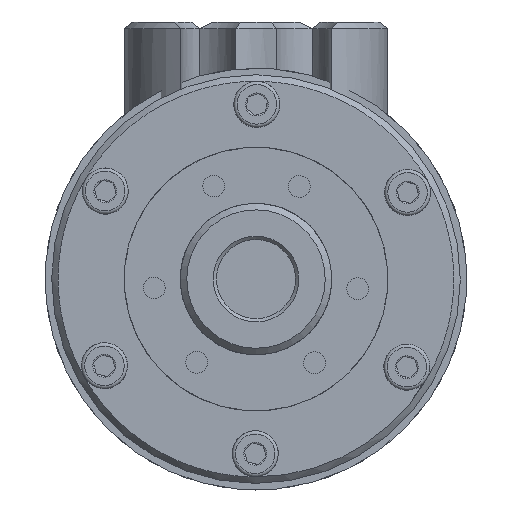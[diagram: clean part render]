
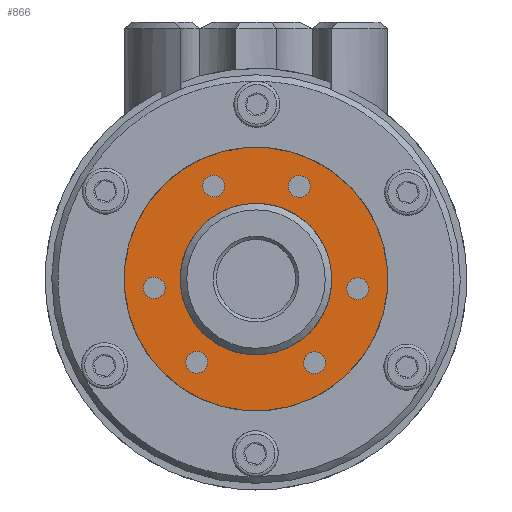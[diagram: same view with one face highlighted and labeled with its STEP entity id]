
A CAD part, left-side view. The second image highlights one B-rep face of the part: STEP entity #866.
In plain terms, the highlighted planar face has unit normal (-1, 0, 0) as drawn and (0, -1, 0) by its records, which use the part's own axes.
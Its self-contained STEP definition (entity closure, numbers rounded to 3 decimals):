
#866 = ADVANCED_FACE( '', ( #1820, #1821, #1822, #1823, #1824, #1825, #1826, #1827 ), #1828, .F. );
#1820 = FACE_OUTER_BOUND( '', #3330, .T. );
#1821 = FACE_BOUND( '', #3331, .T. );
#1822 = FACE_BOUND( '', #3332, .T. );
#1823 = FACE_BOUND( '', #3333, .T. );
#1824 = FACE_BOUND( '', #3334, .T. );
#1825 = FACE_BOUND( '', #3335, .T. );
#1826 = FACE_BOUND( '', #3336, .T. );
#1827 = FACE_BOUND( '', #3337, .T. );
#1828 = PLANE( '', #3338 );
#3330 = EDGE_LOOP( '', ( #5778 ) );
#3331 = EDGE_LOOP( '', ( #5779 ) );
#3332 = EDGE_LOOP( '', ( #5780 ) );
#3333 = EDGE_LOOP( '', ( #5781 ) );
#3334 = EDGE_LOOP( '', ( #5782 ) );
#3335 = EDGE_LOOP( '', ( #5783 ) );
#3336 = EDGE_LOOP( '', ( #5784 ) );
#3337 = EDGE_LOOP( '', ( #5785 ) );
#3338 = AXIS2_PLACEMENT_3D( '', #5786, #5787, #5788 );
#5778 = ORIENTED_EDGE( '', *, *, #6839, .T. );
#5779 = ORIENTED_EDGE( '', *, *, #6851, .F. );
#5780 = ORIENTED_EDGE( '', *, *, #6848, .F. );
#5781 = ORIENTED_EDGE( '', *, *, #6849, .F. );
#5782 = ORIENTED_EDGE( '', *, *, #6850, .F. );
#5783 = ORIENTED_EDGE( '', *, *, #6852, .F. );
#5784 = ORIENTED_EDGE( '', *, *, #6840, .F. );
#5785 = ORIENTED_EDGE( '', *, *, #6853, .F. );
#5786 = CARTESIAN_POINT( '', ( 0., 0., 20. ) );
#5787 = DIRECTION( '', ( 0., 1., 0. ) );
#5788 = DIRECTION( '', ( 1., 0., 0. ) );
#6839 = EDGE_CURVE( '', #8072, #8072, #8073, .T. );
#6840 = EDGE_CURVE( '', #8074, #8074, #8075, .T. );
#6848 = EDGE_CURVE( '', #8090, #8090, #8091, .T. );
#6849 = EDGE_CURVE( '', #8092, #8092, #8093, .T. );
#6850 = EDGE_CURVE( '', #8094, #8094, #8095, .T. );
#6851 = EDGE_CURVE( '', #8096, #8096, #8097, .T. );
#6852 = EDGE_CURVE( '', #8098, #8098, #8099, .T. );
#6853 = EDGE_CURVE( '', #8100, #8100, #8101, .T. );
#8072 = VERTEX_POINT( '', #10446 );
#8073 = CIRCLE( '', #10447, 20. );
#8074 = VERTEX_POINT( '', #10448 );
#8075 = CIRCLE( '', #10449, 1.65 );
#8090 = VERTEX_POINT( '', #10464 );
#8091 = CIRCLE( '', #10465, 1.65 );
#8092 = VERTEX_POINT( '', #10466 );
#8093 = CIRCLE( '', #10467, 1.65 );
#8094 = VERTEX_POINT( '', #10468 );
#8095 = CIRCLE( '', #10469, 1.65 );
#8096 = VERTEX_POINT( '', #10470 );
#8097 = CIRCLE( '', #10471, 1.65 );
#8098 = VERTEX_POINT( '', #10472 );
#8099 = CIRCLE( '', #10473, 1.65 );
#8100 = VERTEX_POINT( '', #10474 );
#8101 = CIRCLE( '', #10475, 11.5 );
#10446 = CARTESIAN_POINT( '', ( 0., 0., -20. ) );
#10447 = AXIS2_PLACEMENT_3D( '', #12171, #12172, #12173 );
#10448 = CARTESIAN_POINT( '', ( -13.85, 0., 0. ) );
#10449 = AXIS2_PLACEMENT_3D( '', #12174, #12175, #12176 );
#10464 = CARTESIAN_POINT( '', ( 6.925, 0., -11.994 ) );
#10465 = AXIS2_PLACEMENT_3D( '', #12198, #12199, #12200 );
#10466 = CARTESIAN_POINT( '', ( 14.42, 0., 1.372 ) );
#10467 = AXIS2_PLACEMENT_3D( '', #12201, #12202, #12203 );
#10468 = CARTESIAN_POINT( '', ( 6.925, 0., 11.994 ) );
#10469 = AXIS2_PLACEMENT_3D( '', #12204, #12205, #12206 );
#10470 = CARTESIAN_POINT( '', ( -6.021, 0., -13.174 ) );
#10471 = AXIS2_PLACEMENT_3D( '', #12207, #12208, #12209 );
#10472 = CARTESIAN_POINT( '', ( -8.398, 0., 11.802 ) );
#10473 = AXIS2_PLACEMENT_3D( '', #12210, #12211, #12212 );
#10474 = CARTESIAN_POINT( '', ( 0., 0., -11.5 ) );
#10475 = AXIS2_PLACEMENT_3D( '', #12213, #12214, #12215 );
#12171 = CARTESIAN_POINT( '', ( 0., 0., 0. ) );
#12172 = DIRECTION( '', ( 0., -1., 0. ) );
#12173 = DIRECTION( '', ( 0., 0., -1. ) );
#12174 = CARTESIAN_POINT( '', ( -15.5, 0., 0. ) );
#12175 = DIRECTION( '', ( 0., -1., 0. ) );
#12176 = DIRECTION( '', ( 1., 0., 0. ) );
#12198 = CARTESIAN_POINT( '', ( 7.75, 0., -13.423 ) );
#12199 = DIRECTION( '', ( 0., -1., 0. ) );
#12200 = DIRECTION( '', ( -0.5, 0., 0.866 ) );
#12201 = CARTESIAN_POINT( '', ( 15.245, 0., 2.801 ) );
#12202 = DIRECTION( '', ( 0., -1., 0. ) );
#12203 = DIRECTION( '', ( -0.5, 0., -0.866 ) );
#12204 = CARTESIAN_POINT( '', ( 7.75, 0., 13.423 ) );
#12205 = DIRECTION( '', ( 0., -1., 0. ) );
#12206 = DIRECTION( '', ( -0.5, 0., -0.866 ) );
#12207 = CARTESIAN_POINT( '', ( -5.196, 0., -14.603 ) );
#12208 = DIRECTION( '', ( 0., -1., 0. ) );
#12209 = DIRECTION( '', ( -0.5, 0., 0.866 ) );
#12210 = CARTESIAN_POINT( '', ( -10.048, 0., 11.802 ) );
#12211 = DIRECTION( '', ( 0., -1., 0. ) );
#12212 = DIRECTION( '', ( 1., 0., 0. ) );
#12213 = CARTESIAN_POINT( '', ( 0., 0., 0. ) );
#12214 = DIRECTION( '', ( 0., -1., 0. ) );
#12215 = DIRECTION( '', ( 0., 0., -1. ) );
